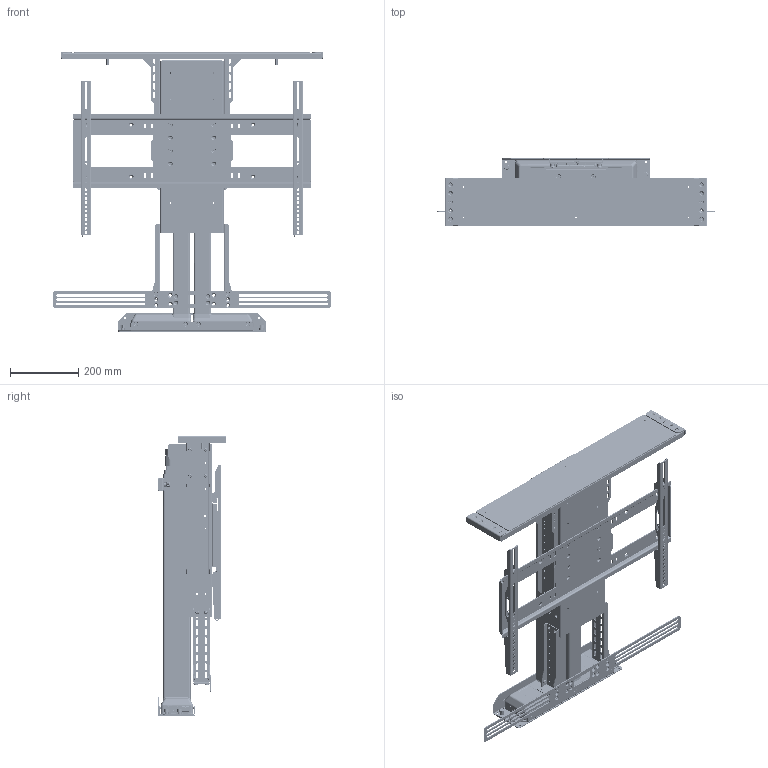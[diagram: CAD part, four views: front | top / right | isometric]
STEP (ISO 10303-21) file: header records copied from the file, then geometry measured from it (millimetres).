
FILE_DESCRIPTION(/* description */ ('STEP AP242','CAx-IF Rec.Pracs.---Representation and Presentation of Product Manufacturing Information (PMI)---4.0---2014-10-13','CAx-IF Rec.Pracs.---3D Tessellated Geometry---0.4---2014-09-14','2;1'),/* implementation_level */ '2;1');
FILE_NAME(/* name */ '65523bcb9b98ac61b84e0be3',/* time_stamp */ '2023-11-13T15:08:01Z',/* author */ (''),/* organization */ (''),/* preprocessor_version */ 'ST-DEVELOPER v19.4',/* originating_system */ ' ',/* authorisation */ ' ');
FILE_SCHEMA (('AP242_MANAGED_MODEL_BASED_3D_ENGINEERING_MIM_LF { 1 0 10303 442 1 1 4 }'));
Products named in the file (91): DL-65s (HD); Socket button head screw M6x1 x 12; ULS-NX-029 - HD Column Clamp; Hex socket countersunk head screw M6x1 x 12; WDS8151-215; Socket button head screw M6x1 x 16; L65 PS Adapter; ULS-NX-032 - HD Quick Release LC Mount; L-65x SBM Bracket; Lift Column H <2>; L45 LC Inner Profile; L45 LC Motor Housing; L45 LC Middle Profile; ULS-NX-033 - HD LOWER ACCESSORY BRACKET w/ PEMS <1>; PEM CLS-M6-1  ; ULS-NX-033 - HD LOWER ACCESSORY BRACKET; ULS-NX-033 - HD LOWER ACCESSORY BRACKET w/ PEMS <2>; Lift Column H <1>; SBP & VMB <1>; ULS-NX-017 - UL SCREEN BACK PLATE; PZ Pan head screw M5x0.80 x 25; ULS-NX-118 - UL VMB WELDMENT <1>; VMB Washer; 90107A012; PEM BSO-632-10  ZI; ULS-NX-020 - UL SCREEN LOCK; ULS-NX-019 - UL LEVEL ADJUSTMENT PLATE; Socket button head cap screw #6-32 x 0.188; ULS-NX-018 - UL VERICAL MOUNTING BAR; ULS-NX-118 - UL VMB WELDMENT <2>; ULS-NX-030 - HD REAR SUPPORT w/ PEMs <1>; PEM FHS-M6-12  ; ULS-NX-030 - HD Rear Support; ULS-NX-031 - HD QUICK RELEASE BASE MOUNT w/ PEMS <1>; ULS-NX-031 - HD QUICK RELEASE BASE MOUNT; L-65 HD Lid Plate Assembly w/ Lid Supports <1>; ULS-NX-039 - ULS HD LID SUPPORT w/ PEMs <1>; PEM CLS-M6-00  ; ULS-NX-039 -- ULS HD LID SUPPORT; ULS-NX-039 - ULS HD LID SUPPORT w/ PEMs <2>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
Assembly tree (267 placements, depth 5):
  DL-65s (HD)
    Socket button head screw M6x1 x 12  x12
    ULS-NX-029 - HD Column Clamp
    Hex socket countersunk head screw M6x1 x 12  x17
    WDS8151-215  x6
    Socket button head screw M6x1 x 16  x4
    Hex socket countersunk head screw M6x1 x 12  x2
    L65 PS Adapter
    ULS-NX-032 - HD Quick Release LC Mount
    L-65x SBM Bracket
    Lift Column H <2>
      L45 LC Inner Profile
      L45 LC Motor Housing
      L45 LC Middle Profile
    ULS-NX-033 - HD LOWER ACCESSORY BRACKET w/ PEMS <1>
      PEM CLS-M6-1    x4
      ULS-NX-033 - HD LOWER ACCESSORY BRACKET
    ULS-NX-033 - HD LOWER ACCESSORY BRACKET w/ PEMS <2>
      PEM CLS-M6-1    x4
      ULS-NX-033 - HD LOWER ACCESSORY BRACKET
    Lift Column H <1>
      L45 LC Middle Profile
      L45 LC Motor Housing
      L45 LC Inner Profile
    SBP & VMB <1>
      ULS-NX-017 - UL SCREEN BACK PLATE
      PZ Pan head screw M5x0.80 x 25  x2
      ULS-NX-118 - UL VMB WELDMENT <1>
        VMB Washer  x4
        90107A012  x2
        PEM BSO-632-10  ZI  x2
        ULS-NX-020 - UL SCREEN LOCK
        ULS-NX-019 - UL LEVEL ADJUSTMENT PLATE
        Socket button head cap screw #6-32 x 0.188  x2
        ULS-NX-018 - UL VERICAL MOUNTING BAR
      ULS-NX-118 - UL VMB WELDMENT <2>
        PEM BSO-632-10  ZI  x2
        ULS-NX-019 - UL LEVEL ADJUSTMENT PLATE
        VMB Washer  x4
        Socket button head cap screw #6-32 x 0.188  x2
        90107A012  x2
        ULS-NX-020 - UL SCREEN LOCK
        ULS-NX-018 - UL VERICAL MOUNTING BAR
    ULS-NX-030 - HD REAR SUPPORT w/ PEMs <1>
      PEM FHS-M6-12    x2
      ULS-NX-030 - HD Rear Support
    ULS-NX-031 - HD QUICK RELEASE BASE MOUNT w/ PEMS <1>
      PEM FHS-M6-12    x4
      ULS-NX-031 - HD QUICK RELEASE BASE MOUNT
    L-65 HD Lid Plate Assembly w/ Lid Supports <1>
      Hex socket countersunk head screw M6x1 x 12  x4
      ULS-NX-039 - ULS HD LID SUPPORT w/ PEMs <1>
        PEM CLS-M6-00    x2
        ULS-NX-039 -- ULS HD LID SUPPORT
      ULS-NX-039 - ULS HD LID SUPPORT w/ PEMs <2>
        PEM CLS-M6-00    x2
        ULS-NX-039 -- ULS HD LID SUPPORT
      L-65 HD Lid Plate Assembly w/ Lid Adapter <1>
        PEM FH-M6-18  ZI  x4
        PEM S-M6-1  ZI  x6
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Bounding box: 812.8 x 198.85 x 820.61 mm (x, y, z)
Volume: 17377768.4 mm3; surface area: 3286933.9 mm2
Topology: 249 solids, 249 shells, 13788 faces, 36002 edges, 23217 vertices
Faces by surface type: plane 8396, cylinder 3219, cone 1084, bspline 691, torus 336, sphere 62
Full cylindrical faces by diameter (mm): 1.194 x2, 1.208 x1, 1.473 x3, 1.552 x1, 1.575 x2, 1.6 x2, 1.956 x8, 2.235 x1, 2.642 x4, 2.794 x1, 3.048 x2, 3.175 x1, 3.505 x7, 3.683 x1, 4 x8, 4.496 x6, 4.6 x4, 4.75 x1, 4.917 x64, 5 x46, 5.026 x4, 5.08 x4, 5.277 x8, 5.3 x12, 5.385 x12, 5.41 x8, 5.6 x8, 5.944 x4, 5.994 x4, 6 x103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
Entity records: 151819 total; most frequent: CARTESIAN_POINT 38327, DIRECTION 22195, ORIENTED_EDGE 21414, EDGE_CURVE 10707, AXIS2_PLACEMENT_3D 7953, VERTEX_POINT 7224, LINE 6289, VECTOR 6289
